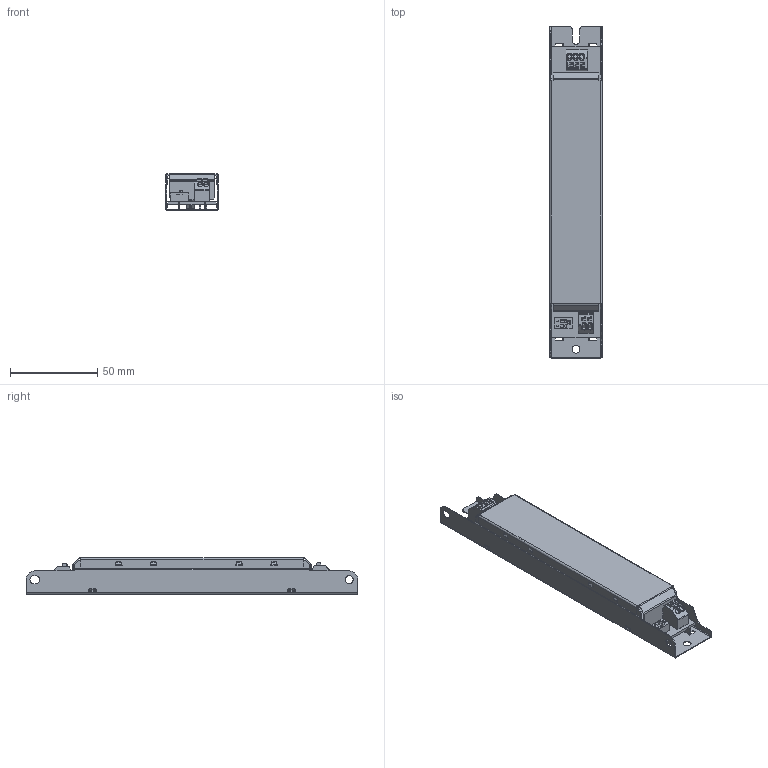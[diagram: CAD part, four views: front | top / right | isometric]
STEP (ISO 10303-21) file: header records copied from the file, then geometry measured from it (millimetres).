
FILE_DESCRIPTION((''),'2;1');
FILE_NAME('3D_FILE_OF_LL40HEC-CC-200-350_ASM','2024-07-01T',('Arbiter.he'),(''),'CREO PARAMETRIC BY PTC INC, 2018220','CREO PARAMETRIC BY PTC INC, 2018220','');
FILE_SCHEMA(('CONFIG_CONTROL_DESIGN'));
Length unit declared in the file: millimetre
Products named in the file (11): BREP_1; BREP_2; BREP_3; BREP_5; BREP_6; BREP_7; BREP_4; 3N-DUANZITAI_A; DOCUMENT_A_ASM; BOMA-2P; 3D_FILE_OF_LL40HEC-CC-200-350_ASM
Assembly tree (10 placements, depth 3):
  3D_FILE_OF_LL40HEC-CC-200-350_ASM
    DOCUMENT_A_ASM
      BREP_1
      BREP_2
      BREP_3
      BREP_5
      BREP_6
      BREP_7
      BREP_4
      3N-DUANZITAI_A
    BOMA-2P
Bounding box: 30 x 190 x 20.8 mm (x, y, z)
Volume: 19186.3 mm3; surface area: 48367.7 mm2
Topology: 9 solids, 9 shells, 1049 faces, 2777 edges, 1773 vertices
Faces by surface type: plane 550, cylinder 312, bspline 130, extrusion 36, cone 11, torus 10
Entity records: 40837 total; most frequent: CARTESIAN_POINT 13937, ORIENTED_EDGE 5554, DIRECTION 4787, EDGE_CURVE 2777, VECTOR 1853, LINE 1817, VERTEX_POINT 1773, AXIS2_PLACEMENT_3D 1467
